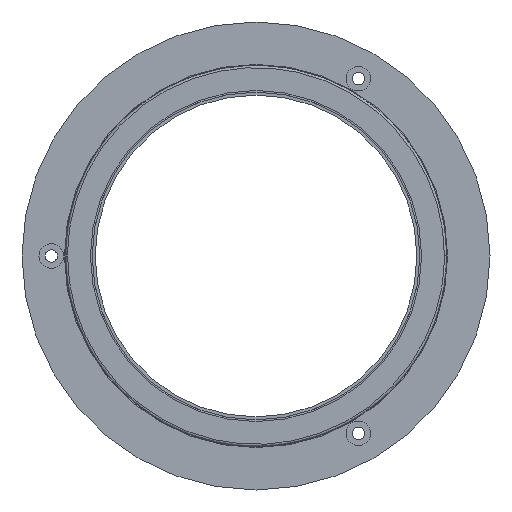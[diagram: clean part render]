
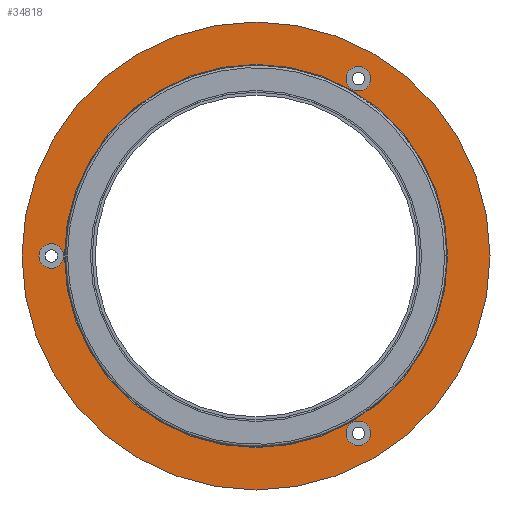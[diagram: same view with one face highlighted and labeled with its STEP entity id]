
A CAD part, left-side view. The second image highlights one B-rep face of the part: STEP entity #34818.
In plain terms, the highlighted planar face has unit normal (-1, 0, 0).
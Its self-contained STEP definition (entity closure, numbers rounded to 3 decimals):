
#60 = AXIS2_PLACEMENT_3D ( 'NONE', #6367, #27185, #9425 ) ;
#117 = AXIS2_PLACEMENT_3D ( 'NONE', #10549, #31129, #13593 ) ;
#118 = AXIS2_PLACEMENT_3D ( 'NONE', #11031, #31586, #14042 ) ;
#776 = EDGE_LOOP ( 'NONE', ( #20322, #16670 ) ) ;
#1122 = AXIS2_PLACEMENT_3D ( 'NONE', #22291, #4281, #25198 ) ;
#1247 = CIRCLE ( 'NONE', #24343, 2.1 ) ;
#1310 = FACE_BOUND ( 'NONE', #3305, .T. ) ;
#1535 = DIRECTION ( 'NONE',  ( 1., 0., 0. ) ) ;
#3305 = EDGE_LOOP ( 'NONE', ( #36430, #6170 ) ) ;
#3368 = DIRECTION ( 'NONE',  ( 1., 0., 0. ) ) ;
#3585 = CIRCLE ( 'NONE', #17235, 2.1 ) ;
#3728 = EDGE_CURVE ( 'NONE', #21655, #27226, #34947, .T. ) ;
#4281 = DIRECTION ( 'NONE',  ( -1., 0., 0. ) ) ;
#5355 = ORIENTED_EDGE ( 'NONE', *, *, #5408, .F. ) ;
#5408 = EDGE_CURVE ( 'NONE', #36238, #30910, #19496, .T. ) ;
#5958 = EDGE_LOOP ( 'NONE', ( #33673, #17368 ) ) ;
#6167 = CIRCLE ( 'NONE', #118, 2.1 ) ;
#6170 = ORIENTED_EDGE ( 'NONE', *, *, #17323, .T. ) ;
#6367 = CARTESIAN_POINT ( 'NONE',  ( 2.8, 0., 0. ) ) ;
#7196 = DIRECTION ( 'NONE',  ( -1., 0., 0. ) ) ;
#7217 = PLANE ( 'NONE',  #1122 ) ;
#8540 = CARTESIAN_POINT ( 'NONE',  ( 2.8, -17.5, 30.311 ) ) ;
#8695 = CARTESIAN_POINT ( 'NONE',  ( 2.8, -17.5, -28.211 ) ) ;
#9425 = DIRECTION ( 'NONE',  ( 0., 0., 1. ) ) ;
#9827 = CARTESIAN_POINT ( 'NONE',  ( 2.8, 0., 30. ) ) ;
#10240 = EDGE_CURVE ( 'NONE', #12221, #30161, #1247, .T. ) ;
#10549 = CARTESIAN_POINT ( 'NONE',  ( 2.8, -17.5, 30.311 ) ) ;
#11031 = CARTESIAN_POINT ( 'NONE',  ( 2.8, -17.5, -30.311 ) ) ;
#11315 = FACE_BOUND ( 'NONE', #5958, .T. ) ;
#11603 = DIRECTION ( 'NONE',  ( 0., 0., -1. ) ) ;
#11955 = CIRCLE ( 'NONE', #21734, 40. ) ;
#12221 = VERTEX_POINT ( 'NONE', #36621 ) ;
#12383 = CARTESIAN_POINT ( 'NONE',  ( 2.8, 0., 0. ) ) ;
#12950 = CARTESIAN_POINT ( 'NONE',  ( 2.8, 35., -2.1 ) ) ;
#13593 = DIRECTION ( 'NONE',  ( 0., 0., -1. ) ) ;
#13668 = EDGE_CURVE ( 'NONE', #30358, #14841, #11955, .T. ) ;
#13803 = ORIENTED_EDGE ( 'NONE', *, *, #30757, .F. ) ;
#14042 = DIRECTION ( 'NONE',  ( 0., 0., -1. ) ) ;
#14841 = VERTEX_POINT ( 'NONE', #34752 ) ;
#14856 = VERTEX_POINT ( 'NONE', #28999 ) ;
#15408 = DIRECTION ( 'NONE',  ( 0., 0., -1. ) ) ;
#16670 = ORIENTED_EDGE ( 'NONE', *, *, #3728, .T. ) ;
#17112 = DIRECTION ( 'NONE',  ( 1., 0., 0. ) ) ;
#17235 = AXIS2_PLACEMENT_3D ( 'NONE', #19656, #1535, #22586 ) ;
#17323 = EDGE_CURVE ( 'NONE', #14856, #25285, #26899, .T. ) ;
#17343 = EDGE_LOOP ( 'NONE', ( #21380, #18730 ) ) ;
#17368 = ORIENTED_EDGE ( 'NONE', *, *, #33449, .T. ) ;
#17999 = DIRECTION ( 'NONE',  ( 1., 0., 0. ) ) ;
#18730 = ORIENTED_EDGE ( 'NONE', *, *, #13668, .F. ) ;
#19496 = CIRCLE ( 'NONE', #25417, 30. ) ;
#19656 = CARTESIAN_POINT ( 'NONE',  ( 2.8, 35., 0. ) ) ;
#19686 = CARTESIAN_POINT ( 'NONE',  ( 2.8, 0., -30. ) ) ;
#19956 = AXIS2_PLACEMENT_3D ( 'NONE', #34502, #17112, #37566 ) ;
#20322 = ORIENTED_EDGE ( 'NONE', *, *, #22357, .T. ) ;
#20451 = CIRCLE ( 'NONE', #22227, 2.1 ) ;
#21380 = ORIENTED_EDGE ( 'NONE', *, *, #21779, .F. ) ;
#21415 = CARTESIAN_POINT ( 'NONE',  ( 2.8, -17.5, -30.311 ) ) ;
#21655 = VERTEX_POINT ( 'NONE', #33871 ) ;
#21734 = AXIS2_PLACEMENT_3D ( 'NONE', #12383, #32859, #15408 ) ;
#21779 = EDGE_CURVE ( 'NONE', #14841, #30358, #35591, .T. ) ;
#22227 = AXIS2_PLACEMENT_3D ( 'NONE', #8540, #29197, #11603 ) ;
#22291 = CARTESIAN_POINT ( 'NONE',  ( 2.8, 40., 0. ) ) ;
#22357 = EDGE_CURVE ( 'NONE', #27226, #21655, #3585, .T. ) ;
#22524 = CARTESIAN_POINT ( 'NONE',  ( 2.8, 0., 40. ) ) ;
#22586 = DIRECTION ( 'NONE',  ( 0., 0., -1. ) ) ;
#24063 = CARTESIAN_POINT ( 'NONE',  ( 2.8, -17.5, 28.211 ) ) ;
#24315 = FACE_OUTER_BOUND ( 'NONE', #17343, .T. ) ;
#24334 = DIRECTION ( 'NONE',  ( 0., 0., -1. ) ) ;
#24343 = AXIS2_PLACEMENT_3D ( 'NONE', #21415, #3368, #24334 ) ;
#24438 = AXIS2_PLACEMENT_3D ( 'NONE', #35377, #17999, #38466 ) ;
#25054 = CARTESIAN_POINT ( 'NONE',  ( 2.8, 0., 0. ) ) ;
#25198 = DIRECTION ( 'NONE',  ( 0., 0., 1. ) ) ;
#25285 = VERTEX_POINT ( 'NONE', #24063 ) ;
#25417 = AXIS2_PLACEMENT_3D ( 'NONE', #25054, #7196, #27953 ) ;
#26875 = EDGE_CURVE ( 'NONE', #25285, #14856, #20451, .T. ) ;
#26899 = CIRCLE ( 'NONE', #117, 2.1 ) ;
#27185 = DIRECTION ( 'NONE',  ( -1., 0., 0. ) ) ;
#27226 = VERTEX_POINT ( 'NONE', #12950 ) ;
#27953 = DIRECTION ( 'NONE',  ( 0., 0., 1. ) ) ;
#28399 = CIRCLE ( 'NONE', #60, 30. ) ;
#28999 = CARTESIAN_POINT ( 'NONE',  ( 2.8, -17.5, 32.411 ) ) ;
#29197 = DIRECTION ( 'NONE',  ( 1., 0., 0. ) ) ;
#30161 = VERTEX_POINT ( 'NONE', #8695 ) ;
#30358 = VERTEX_POINT ( 'NONE', #22524 ) ;
#30757 = EDGE_CURVE ( 'NONE', #30910, #36238, #28399, .T. ) ;
#30910 = VERTEX_POINT ( 'NONE', #9827 ) ;
#31129 = DIRECTION ( 'NONE',  ( 1., 0., 0. ) ) ;
#31586 = DIRECTION ( 'NONE',  ( 1., 0., 0. ) ) ;
#31964 = FACE_BOUND ( 'NONE', #33167, .T. ) ;
#32859 = DIRECTION ( 'NONE',  ( 1., 0., 0. ) ) ;
#32889 = FACE_BOUND ( 'NONE', #776, .T. ) ;
#33167 = EDGE_LOOP ( 'NONE', ( #13803, #5355 ) ) ;
#33449 = EDGE_CURVE ( 'NONE', #30161, #12221, #6167, .T. ) ;
#33673 = ORIENTED_EDGE ( 'NONE', *, *, #10240, .T. ) ;
#33871 = CARTESIAN_POINT ( 'NONE',  ( 2.8, 35., 2.1 ) ) ;
#34502 = CARTESIAN_POINT ( 'NONE',  ( 2.8, 0., 0. ) ) ;
#34752 = CARTESIAN_POINT ( 'NONE',  ( 2.8, 0., -40. ) ) ;
#34818 = ADVANCED_FACE ( 'NONE', ( #31964, #32889, #11315, #1310, #24315 ), #7217, .T. ) ;
#34947 = CIRCLE ( 'NONE', #24438, 2.1 ) ;
#35377 = CARTESIAN_POINT ( 'NONE',  ( 2.8, 35., 0. ) ) ;
#35591 = CIRCLE ( 'NONE', #19956, 40. ) ;
#36238 = VERTEX_POINT ( 'NONE', #19686 ) ;
#36430 = ORIENTED_EDGE ( 'NONE', *, *, #26875, .T. ) ;
#36621 = CARTESIAN_POINT ( 'NONE',  ( 2.8, -17.5, -32.411 ) ) ;
#37566 = DIRECTION ( 'NONE',  ( 0., 0., -1. ) ) ;
#38466 = DIRECTION ( 'NONE',  ( 0., 0., -1. ) ) ;
